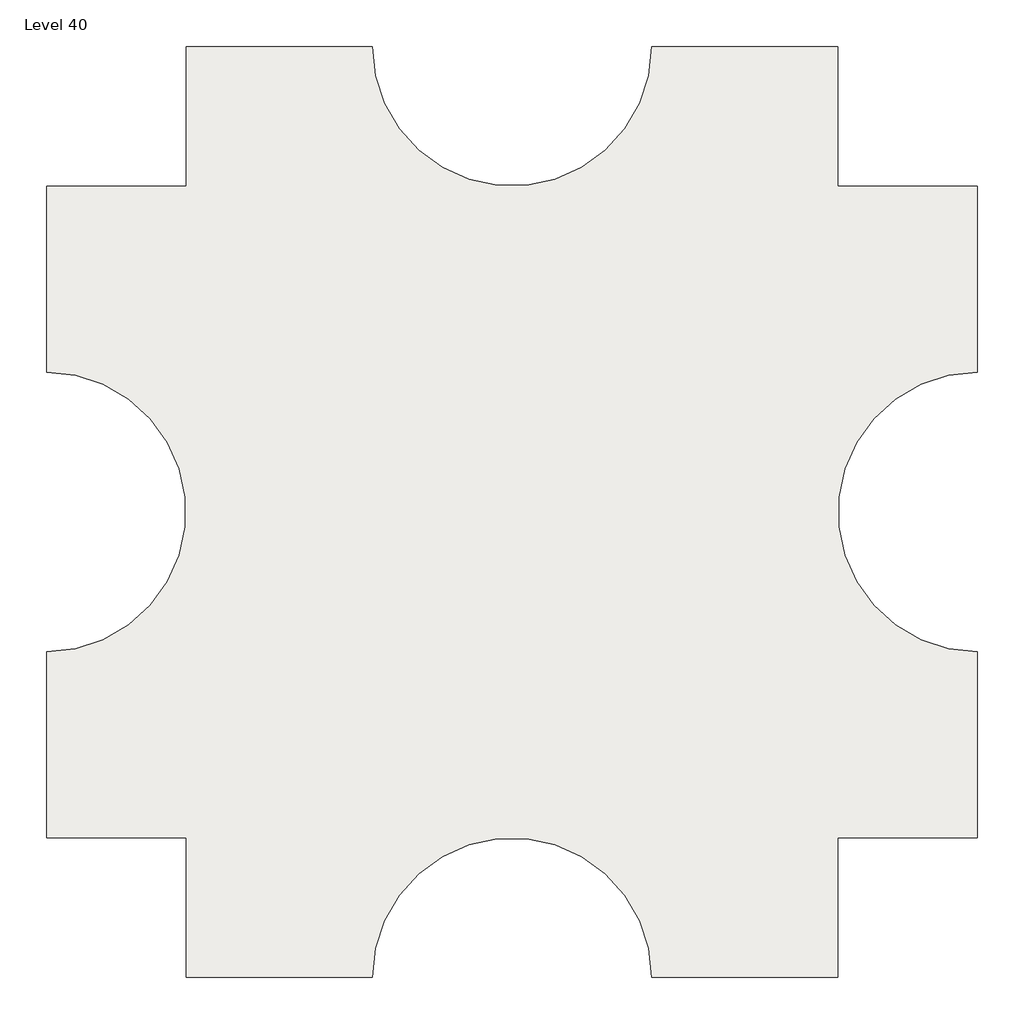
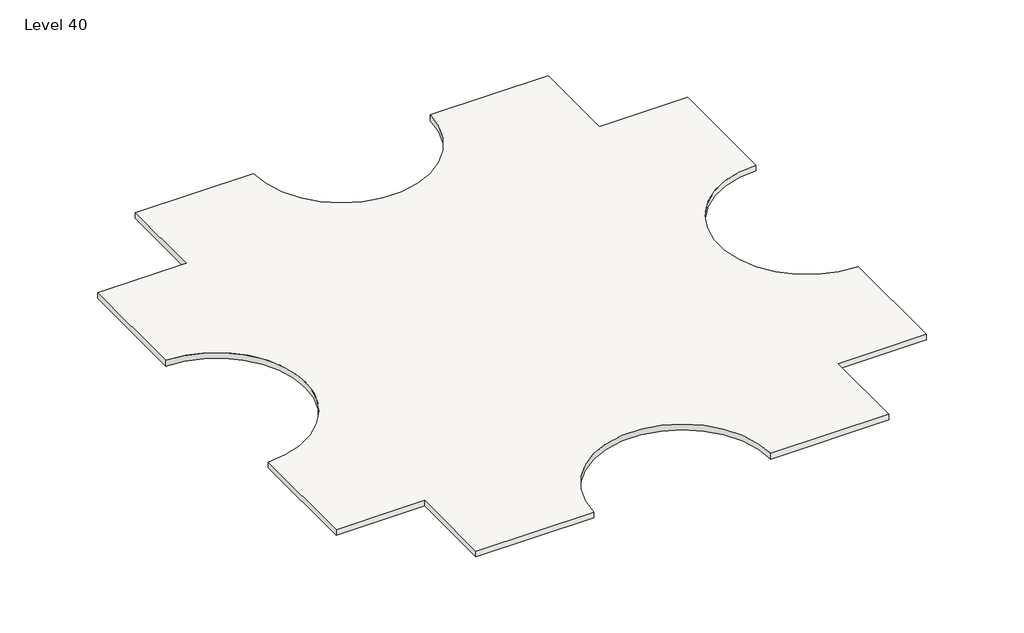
# One storey: 2 slabs.
"""IFC4 building model written with IfcOpenShell, lengths in millimetres."""

import ifcopenshell
import ifcopenshell.guid

model = None  # the IFC model being written
_history = None  # IfcOwnerHistory: only IFC2X3 demands one
_inside = {}  # id of a spatial element -> (the spatial element, [elements in it])
_under = {}  # id of a project, library or spatial element -> (it, [spatial elements below it])
_declared = {}  # id of a project -> (the project, [libraries it declares])
_typed = {}  # id of a type object -> (the type object, [elements of that type])
_made_of = {}  # id of a material, layer set ... -> (it, [elements and type objects made of it])


def new_model(schema):
    """Start an empty IFC model of exactly this schema.

    Asked for "IFC4X3", IfcOpenShell would pick the latest addendum, in which some entities
    have other attributes; the version numbers below select the first issue.
    IFC2X3 requires an IfcOwnerHistory on every rooted entity: one is made here for all.
    """
    global model, _history
    if schema == "IFC4X3":
        model = ifcopenshell.file(schema_version=(4, 3, 0, 0))
    else:
        model = ifcopenshell.file(schema=schema)
    _inside.clear()
    _under.clear()
    _declared.clear()
    _typed.clear()
    _made_of.clear()
    _history = None
    if model.schema == "IFC2X3":
        org = make("IfcOrganization", Name="unknown")
        user = make(
            "IfcPersonAndOrganization",
            ThePerson=make("IfcPerson", FamilyName="unknown"),
            TheOrganization=org,
        )
        app = make(
            "IfcApplication",
            ApplicationDeveloper=org,
            Version="unknown",
            ApplicationFullName="unknown",
            ApplicationIdentifier="unknown",
        )
        _history = make(
            "IfcOwnerHistory",
            OwningUser=user,
            OwningApplication=app,
            ChangeAction="ADDED",
            CreationDate=0,
        )
    return model


def make(cls, **values):
    """One entity of the class cls with the attributes given. An attribute that is None is left unset."""
    return model.create_entity(
        cls, **{name: value for name, value in values.items() if value is not None}
    )


def rooted(cls, **values):
    """An entity with a GlobalId (a new one), such as an element, a storey or a relation."""
    return make(cls, GlobalId=ifcopenshell.guid.new(), OwnerHistory=_history, **values)


def si_unit(unit_type, name, prefix=None):
    """IfcSIUnit, for example si_unit("LENGTHUNIT", "METRE", prefix="MILLI")."""
    return make("IfcSIUnit", UnitType=unit_type, Prefix=prefix, Name=name)


def assignment(units):
    """IfcUnitAssignment: the units of a project."""
    return None if units is None else make("IfcUnitAssignment", Units=units)


def point(xyz):
    """IfcCartesianPoint."""
    return None if xyz is None else make("IfcCartesianPoint", Coordinates=xyz)


def direction(xyz):
    """IfcDirection."""
    return None if xyz is None else make("IfcDirection", DirectionRatios=xyz)


def frame(location, z_axis=None, x_axis=None):
    """IfcAxis2Placement3D, a coordinate frame: its origin and axes. An axis left out is left unset."""
    return make(
        "IfcAxis2Placement3D",
        Location=point(location),
        Axis=direction(z_axis),
        RefDirection=direction(x_axis),
    )


def frame_2d(location, x_axis=None):
    """IfcAxis2Placement2D, a coordinate frame in the plane: its origin and x axis."""
    return make(
        "IfcAxis2Placement2D", Location=point(location), RefDirection=direction(x_axis)
    )


def origin():
    """The frame at (0, 0, 0) with its axes left unset."""
    return frame((0.0, 0.0, 0.0))


def place(relative_to, where):
    """IfcLocalPlacement: puts the frame where relative to a parent placement (None: the world)."""
    return make(
        "IfcLocalPlacement", PlacementRelTo=relative_to, RelativePlacement=where
    )


def context(
    kind, dimensions, precision=None, world=None, true_north=None, identifier=None
):
    """IfcGeometricRepresentationContext, for example the 3D "Model" context."""
    return make(
        "IfcGeometricRepresentationContext",
        ContextIdentifier=identifier,
        ContextType=kind,
        CoordinateSpaceDimension=dimensions,
        Precision=precision,
        WorldCoordinateSystem=world,
        TrueNorth=true_north,
    )


def project(units=None, contexts=None):
    """IfcProject with its units and contexts."""
    return rooted(
        "IfcProject",
        Name="project",
        RepresentationContexts=contexts,
        UnitsInContext=assignment(units),
    )


def spatial(cls, under=None, at=None, **own):
    """A site, building, storey or space (cls), placed at a placement, below another one or the project."""
    s = rooted(cls, ObjectPlacement=at, **own)
    if under is not None:
        _under.setdefault(under.id(), (under, []))[1].append(s)
    return s


def polyline(points):
    """IfcPolyline through the points."""
    return make("IfcPolyline", Points=[point(p) for p in points])


def circle_curve(where, radius):
    """IfcCircle in the frame where."""
    return make("IfcCircle", Position=where, Radius=radius)


def trimmed(basis, trim1, trim2, sense, master):
    """IfcTrimmedCurve: the piece of a basis curve between two trims."""
    return make(
        "IfcTrimmedCurve",
        BasisCurve=basis,
        Trim1=trim1,
        Trim2=trim2,
        SenseAgreement=sense,
        MasterRepresentation=master,
    )


def segment(curve, same_sense, transition):
    """IfcCompositeCurveSegment."""
    return make(
        "IfcCompositeCurveSegment",
        Transition=transition,
        SameSense=same_sense,
        ParentCurve=curve,
    )


def composite_curve(segments, self_intersect=None):
    """IfcCompositeCurve: segments joined end to end."""
    return make("IfcCompositeCurve", Segments=segments, SelfIntersect=self_intersect)


def outline(outer, holes=None, kind="AREA"):
    """IfcArbitraryClosedProfileDef: a profile drawn as a closed curve; with holes, ...WithVoids."""
    if holes is None:
        return make("IfcArbitraryClosedProfileDef", ProfileType=kind, OuterCurve=outer)
    return make(
        "IfcArbitraryProfileDefWithVoids",
        ProfileType=kind,
        OuterCurve=outer,
        InnerCurves=holes,
    )


def extrude(swept, where, along, depth):
    """IfcExtrudedAreaSolid: the profile swept, set in the frame where, extruded along a direction by depth."""
    return make(
        "IfcExtrudedAreaSolid",
        SweptArea=swept,
        Position=where,
        ExtrudedDirection=direction(along),
        Depth=depth,
    )


def shape(context_of_items, identifier, shape_type, items):
    """IfcShapeRepresentation: the items that make up one representation, for example the "Body"."""
    return make(
        "IfcShapeRepresentation",
        ContextOfItems=context_of_items,
        RepresentationIdentifier=identifier,
        RepresentationType=shape_type,
        Items=items,
    )


def made_of(thing, what):
    """Note that an element or type object is made of a material, layer set ...; save() writes the relation."""
    if what is not None:
        _made_of.setdefault(what.id(), (what, []))[1].append(thing)
    return thing


def element(
    cls,
    number,
    at=None,
    inside=None,
    cuts=None,
    type_object=None,
    material=None,
    context=None,
    identifier="Body",
    shape_type=None,
    held_by="IfcProductDefinitionShape",
    body=None,
    shapes=None,
    **own,
):
    """One element of the class cls, such as IfcWall. Its Tag is "e" and its number.

    at: its placement. inside: the storey or other place that contains it. cuts: it is an
    opening in that element (IfcRelVoidsElement). A single representation is given by context,
    identifier, shape_type and body (its items); several are given by shapes. held_by: the class
    of the entity that holds the representations. save() writes the other relations.
    """
    e = rooted(cls, Tag="e%d" % number, ObjectPlacement=at, **own)
    if body is not None:
        shapes = [shape(context, identifier, shape_type, body)]
    if shapes is not None:
        e.Representation = make(held_by, Representations=shapes)
    if inside is not None:
        _inside.setdefault(inside.id(), (inside, []))[1].append(e)
    if cuts is not None:
        rooted(
            "IfcRelVoidsElement", RelatingBuildingElement=cuts, RelatedOpeningElement=e
        )
    if type_object is not None:
        _typed.setdefault(type_object.id(), (type_object, []))[1].append(e)
    return made_of(e, material)


def aggregate(whole, parts):
    """IfcRelAggregates: a whole, such as a stair, and the parts it consists of."""
    return rooted("IfcRelAggregates", RelatingObject=whole, RelatedObjects=parts)


def save(model, path):
    """Write the relations noted so far, then the file.

    IfcRelAggregates (storeys below a building ...), IfcRelContainedInSpatialStructure (elements
    in a storey), IfcRelDefinesByType, IfcRelAssociatesMaterial and IfcRelDeclares: one each for
    every whole, place, type object, material and project.
    """
    for whole, parts in _under.values():
        aggregate(whole, parts)
    for where, things in _inside.values():
        rooted(
            "IfcRelContainedInSpatialStructure",
            RelatedElements=things,
            RelatingStructure=where,
        )
    for kind, things in _typed.values():
        rooted("IfcRelDefinesByType", RelatedObjects=things, RelatingType=kind)
    for what, things in _made_of.values():
        rooted("IfcRelAssociatesMaterial", RelatedObjects=things, RelatingMaterial=what)
    for by, libraries in _declared.values():
        rooted("IfcRelDeclares", RelatingContext=by, RelatedDefinitions=libraries)
    model.write(path)


model = new_model("IFC4")

# Units and contexts
model_context = context("Model", 3, world=origin())
ifc_project = project(units=[si_unit("LENGTHUNIT", "METRE", prefix="MILLI")], contexts=[model_context])

# Site, building, storey
site = spatial("IfcSite", under=ifc_project)
building = spatial("IfcBuilding", under=site)
storey = spatial("IfcBuildingStorey", under=building, Name="Level 40", Elevation=118872.0)

# Slabs
placement = place(None, origin())
element("IfcSlab", 1, ObjectType="Generic - 12\"", at=placement, inside=storey, context=model_context, shape_type="SweptSolid", body=[
    extrude(outline(composite_curve([segment(polyline([(-7150.3629456, 4479.6634547), (-7150.3629456, 9051.6634547), (-1054.3629456, 9051.6634547)]), True, "CONTINUOUS"), segment(trimmed(circle_curve(frame_2d((3517.6370544, 9051.6634547)), 4572.0), [point((-1054.3629456, 9051.6634547))], [point((8089.6370544, 9051.6634547))], True, "CARTESIAN"), True, "CONTINUOUS"), segment(polyline([(8089.6370544, 9051.6634547), (14185.6370544, 9051.6634547), (14185.6370544, 4479.6634547), (18757.6370544, 4479.6634547), (18757.6370544, -1616.3365453)]), True, "CONTINUOUS"), segment(trimmed(circle_curve(frame_2d((18757.6370544, -6188.3365453)), 4572.0), [point((18757.6370544, -1616.3365453))], [point((18757.6370544, -10760.3365453))], True, "CARTESIAN"), True, "CONTINUOUS"), segment(polyline([(18757.6370544, -10760.3365453), (18757.6370544, -16856.3365453), (14185.6370544, -16856.3365453), (14185.6370544, -21428.3365453), (8089.6370544, -21428.3365453)]), True, "CONTINUOUS"), segment(trimmed(circle_curve(frame_2d((3517.6370544, -21428.3365453)), 4572.0), [point((8089.6370544, -21428.3365453))], [point((-1054.3629456, -21428.3365453))], True, "CARTESIAN"), True, "CONTINUOUS"), segment(polyline([(-1054.3629456, -21428.3365453), (-7150.3629456, -21428.3365453), (-7150.3629456, -16856.3365453), (-11722.3629456, -16856.3365453), (-11722.3629456, -10760.3365453)]), True, "CONTINUOUS"), segment(trimmed(circle_curve(frame_2d((-11722.3629456, -6188.3365453)), 4572.0), [point((-11722.3629456, -10760.3365453))], [point((-11722.3629456, -1616.3365453))], True, "CARTESIAN"), True, "CONTINUOUS"), segment(polyline([(-11722.3629456, -1616.3365453), (-11722.3629456, 4479.6634547), (-7150.3629456, 4479.6634547)]), True, "CONTINUOUS")], self_intersect=False)), frame((0.0, 0.0, 118567.2), z_axis=(0.0, 0.0, 1.0), x_axis=(1.0, 0.0, 0.0)), (0.0, 0.0, 1.0), 304.8),
])
element("IfcSlab", 2, ObjectType="Generic - 12\"", at=placement, inside=storey, context=model_context, shape_type="SweptSolid", body=[
    extrude(outline(composite_curve([segment(polyline([(-7150.3629456, 4479.6634547), (-7150.3629456, 9051.6634547), (-1054.3629456, 9051.6634547)]), True, "CONTINUOUS"), segment(trimmed(circle_curve(frame_2d((3517.6370544, 9051.6634547)), 4572.0), [point((-1054.3629456, 9051.6634547))], [point((8089.6370544, 9051.6634547))], True, "CARTESIAN"), True, "CONTINUOUS"), segment(polyline([(8089.6370544, 9051.6634547), (14185.6370544, 9051.6634547), (14185.6370544, 4479.6634547), (18757.6370544, 4479.6634547), (18757.6370544, -1616.3365453)]), True, "CONTINUOUS"), segment(trimmed(circle_curve(frame_2d((18757.6370544, -6188.3365453)), 4572.0), [point((18757.6370544, -1616.3365453))], [point((18757.6370544, -10760.3365453))], True, "CARTESIAN"), True, "CONTINUOUS"), segment(polyline([(18757.6370544, -10760.3365453), (18757.6370544, -16856.3365453), (14185.6370544, -16856.3365453), (14185.6370544, -21428.3365453), (8089.6370544, -21428.3365453)]), True, "CONTINUOUS"), segment(trimmed(circle_curve(frame_2d((3517.6370544, -21428.3365453)), 4572.0), [point((8089.6370544, -21428.3365453))], [point((-1054.3629456, -21428.3365453))], True, "CARTESIAN"), True, "CONTINUOUS"), segment(polyline([(-1054.3629456, -21428.3365453), (-7150.3629456, -21428.3365453), (-7150.3629456, -16856.3365453), (-11722.3629456, -16856.3365453), (-11722.3629456, -10760.3365453)]), True, "CONTINUOUS"), segment(trimmed(circle_curve(frame_2d((-11722.3629456, -6188.3365453)), 4572.0), [point((-11722.3629456, -10760.3365453))], [point((-11722.3629456, -1616.3365453))], True, "CARTESIAN"), True, "CONTINUOUS"), segment(polyline([(-11722.3629456, -1616.3365453), (-11722.3629456, 4479.6634547), (-7150.3629456, 4479.6634547)]), True, "CONTINUOUS")], self_intersect=False)), frame((0.0, 0.0, 118567.2), z_axis=(0.0, 0.0, 1.0), x_axis=(1.0, 0.0, 0.0)), (0.0, 0.0, 1.0), 304.8),
])

save(model, "model.ifc")
